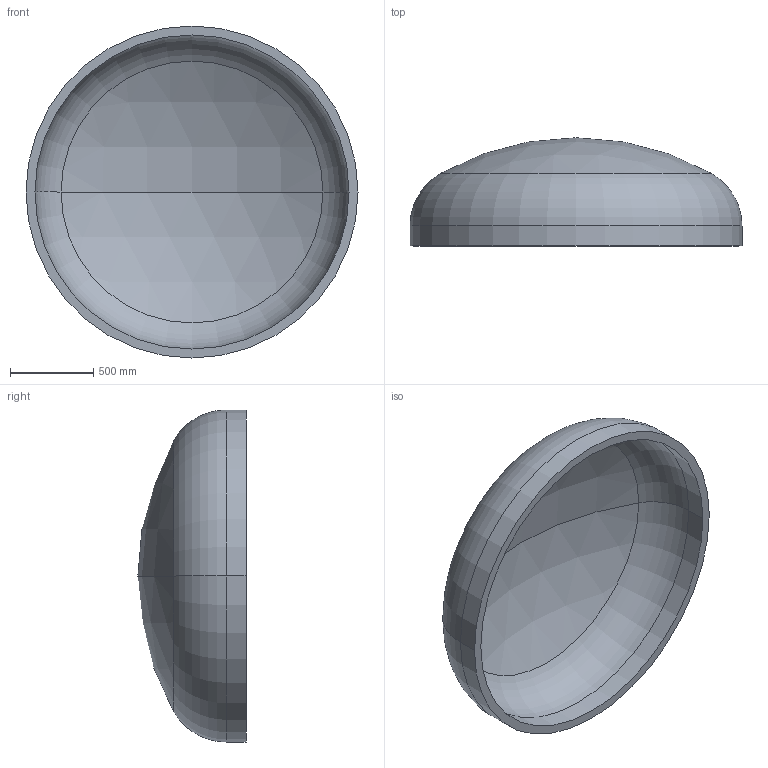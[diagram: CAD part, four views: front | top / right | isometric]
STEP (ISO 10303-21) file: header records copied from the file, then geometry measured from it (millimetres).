
FILE_DESCRIPTION (( 'STEP AP203' ), '1' );
FILE_NAME ('DIN 28013 Korbbogenform_-_Boden DIN 28013 - 2000 x 120 - I - s=54.step', '2016-07-01T13:57:39', ( '' ), ( '' ), 'SwSTEP 2.0', 'SolidWorks 2013', '' );
FILE_SCHEMA (( 'CONFIG_CONTROL_DESIGN' ));
Length unit declared in the file: millimetre
Products named in the file (1): DIN 28013 Korbbogenform_-_Boden DIN 28013 - 2000 x 120 - I - s=54
Bounding box: 2000 x 651.68 x 2000 mm (x, y, z)
Volume: 266705320.9 mm3; surface area: 10214210.2 mm2
Topology: 1 solids, 1 shells, 13 faces, 24 edges, 14 vertices
Faces by surface type: torus 4, cylinder 4, sphere 4, plane 1
Entity records: 407 total; most frequent: DIRECTION 72, CARTESIAN_POINT 52, ORIENTED_EDGE 48, AXIS2_PLACEMENT_3D 34, EDGE_CURVE 24, CIRCLE 20, EDGE_LOOP 14, VERTEX_POINT 14
